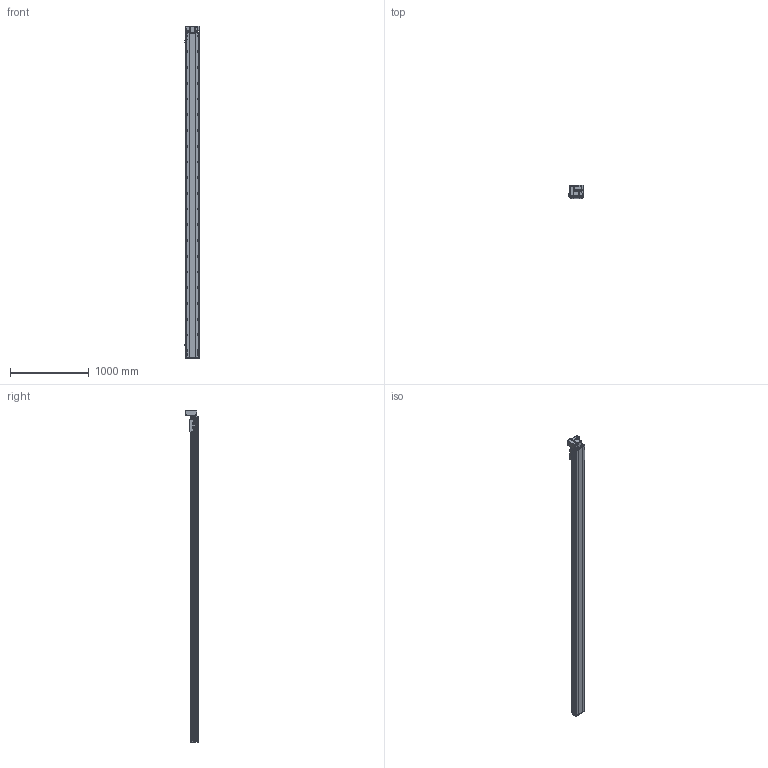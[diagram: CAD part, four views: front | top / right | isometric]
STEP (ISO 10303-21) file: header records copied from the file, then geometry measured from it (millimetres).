
FILE_DESCRIPTION (( 'STEP AP214' ), '1' );
FILE_NAME ('RTB17S-XX-3850-LW-M40-C4.STEP', '2025-12-11T07:27:37', ( '' ), ( '' ), 'SwSTEP 2.0', 'SolidWorks 2018', '' );
FILE_SCHEMA (( 'AUTOMOTIVE_DESIGN' ));
Length unit declared in the file: millimetre
Products named in the file (14): RTB17S-L-014-T20--々湍釱^RTB17S-LW-々湍釱蚾饜-400W_RTB17S-XX-XX-LW-M40-C4; RTB14-L-018P^RTB17S-LW-々湍釱蚾饜-400W_RTB17S-XX-XX-LW-M40-C4; OMRON EE-SX672 传感器^RTB17S-XX-XX-LW-M40-C4; 400W侜督萇儂^RTB17S-XX-XX-LW-M40-C4; RTB17S-L-004佪裝蹟譫蟀諉釱^RTB17S-XX-XX-LW-M40-C4; RTB17S-XX-3850-LW-M40-C4; RTB17S-L-007奻裔^RTB17S-XX-XX-LW-M40-C4; RTB17-R-011菁釱^RTB17S-XX-XX-LW-M40-C4; RTB14-L-005P--轴承塑胶压盖^RTB17S-LW-皮带座装配-400W_RTB17S-XX-XX-LW-M40-C4; RTB14-L-017P^RTB17S-LW-々湍釱蚾饜-400W_RTB17S-XX-XX-LW-M40-C4; RTH13-BL-012覜茼え俋离^RTB17S-XX-XX-LW-M40-C4; RTB17S-L-001耜醱啣^RTB17S-XX-XX-LW-M40-C4; RTB14-L-008-M20--萇儂啣^RTB17S-LW-々湍釱蚾饜-400W_RTB17S-XX-XX-LW-M40-C4; RTB17S-LW-々湍釱蚾饜-400W^RTB17S-XX-XX-LW-M40-C4
Assembly tree (16 placements, depth 3):
  RTB17S-XX-3850-LW-M40-C4
    RTB17-R-011菁釱^RTB17S-XX-XX-LW-M40-C4
    RTB17S-L-007奻裔^RTB17S-XX-XX-LW-M40-C4
    OMRON EE-SX672 传感器^RTB17S-XX-XX-LW-M40-C4  x3
    RTB17S-L-001耜醱啣^RTB17S-XX-XX-LW-M40-C4
    400W侜督萇儂^RTB17S-XX-XX-LW-M40-C4
    RTB17S-L-004佪裝蹟譫蟀諉釱^RTB17S-XX-XX-LW-M40-C4
    RTH13-BL-012覜茼え俋离^RTB17S-XX-XX-LW-M40-C4
    RTB17S-LW-々湍釱蚾饜-400W^RTB17S-XX-XX-LW-M40-C4
      RTB17S-L-014-T20--々湍釱^RTB17S-LW-々湍釱蚾饜-400W_RTB17S-XX-XX-LW-M40-C4
      RTB14-L-005P--轴承塑胶压盖^RTB17S-LW-皮带座装配-400W_RTB17S-XX-XX-LW-M40-C4
      RTB14-L-008-M20--萇儂啣^RTB17S-LW-々湍釱蚾饜-400W_RTB17S-XX-XX-LW-M40-C4
      RTB14-L-017P^RTB17S-LW-々湍釱蚾饜-400W_RTB17S-XX-XX-LW-M40-C4  x2
      RTB14-L-018P^RTB17S-LW-々湍釱蚾饜-400W_RTB17S-XX-XX-LW-M40-C4
Bounding box: 186 x 160.5 x 4222.5 mm (x, y, z)
Volume: 35610601.2 mm3; surface area: 4034343.9 mm2
Topology: 15 solids, 15 shells, 2445 faces, 6897 edges, 4509 vertices
Faces by surface type: plane 1098, cylinder 899, bspline 301, cone 139, torus 8
Entity records: 74153 total; most frequent: CARTESIAN_POINT 21302, ORIENTED_EDGE 10638, DIRECTION 9746, EDGE_CURVE 5319, VERTEX_POINT 3497, AXIS2_PLACEMENT_3D 3427, LINE 2892, VECTOR 2892
